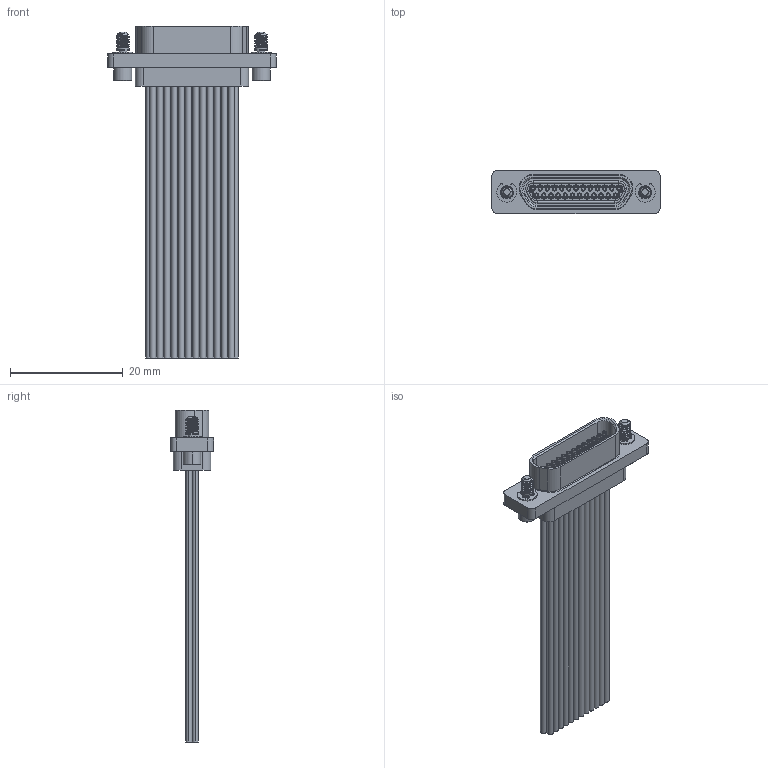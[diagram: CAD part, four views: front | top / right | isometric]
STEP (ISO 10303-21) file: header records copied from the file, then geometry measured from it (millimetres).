
FILE_DESCRIPTION (( 'STEP AP214' ), '1' );
FILE_NAME ('A99004-025 REV B.STEP', '2020-08-06T21:54:25', ( '' ), ( '' ), 'SwSTEP 2.0', 'SolidWorks 2019', '' );
FILE_SCHEMA (( 'AUTOMOTIVE_DESIGN' ));
Length unit declared in the file: inch
Products named in the file (1): A99004-025 REV B
Bounding box: 29.84 x 7.63 x 58.88 mm (x, y, z)
Volume: 2352.1 mm3; surface area: 5826.8 mm2
Topology: 1 solids, 1 shells, 690 faces, 1658 edges, 1073 vertices
Faces by surface type: cylinder 296, plane 260, torus 63, bspline 54, cone 17
Entity records: 32861 total; most frequent: CARTESIAN_POINT 7962, DIRECTION 3466, ORIENTED_EDGE 3316, EDGE_CURVE 1658, AXIS2_PLACEMENT_3D 1333, VERTEX_POINT 1073, VECTOR 800, LINE 800
